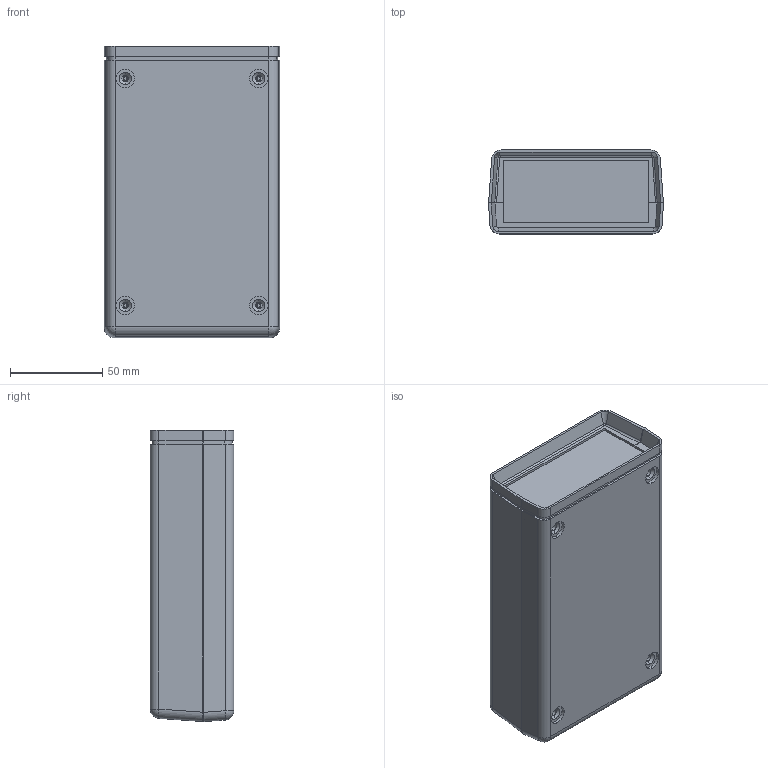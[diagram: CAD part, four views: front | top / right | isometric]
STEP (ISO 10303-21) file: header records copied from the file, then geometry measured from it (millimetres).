
FILE_DESCRIPTION (( 'STEP AP214' ), '1' );
FILE_NAME ('UOCM-123.STEP', '2020-05-22T21:10:24', ( 'Rudy' ), ( '' ), 'SwSTEP 2.0', 'SolidWorks 2014', '' );
FILE_SCHEMA (( 'AUTOMOTIVE_DESIGN' ));
Length unit declared in the file: inch
Products named in the file (4): UOCM-123; UOCM-bottom; UOCM-Deep Top ; UOCM-M
Assembly tree (3 placements, depth 2):
  UOCM-123
    UOCM-bottom
    UOCM-Deep Top 
    UOCM-M
Bounding box: 95 x 45.39 x 158 mm (x, y, z)
Volume: 152781.7 mm3; surface area: 110126.5 mm2
Topology: 3 solids, 3 shells, 789 faces, 2103 edges, 1352 vertices
Faces by surface type: plane 330, cylinder 261, torus 94, cone 92, bspline 8, sphere 4
Entity records: 24979 total; most frequent: CARTESIAN_POINT 5478, ORIENTED_EDGE 4198, DIRECTION 4003, EDGE_CURVE 2099, AXIS2_PLACEMENT_3D 1417, VERTEX_POINT 1352, VECTOR 1169, LINE 1169
